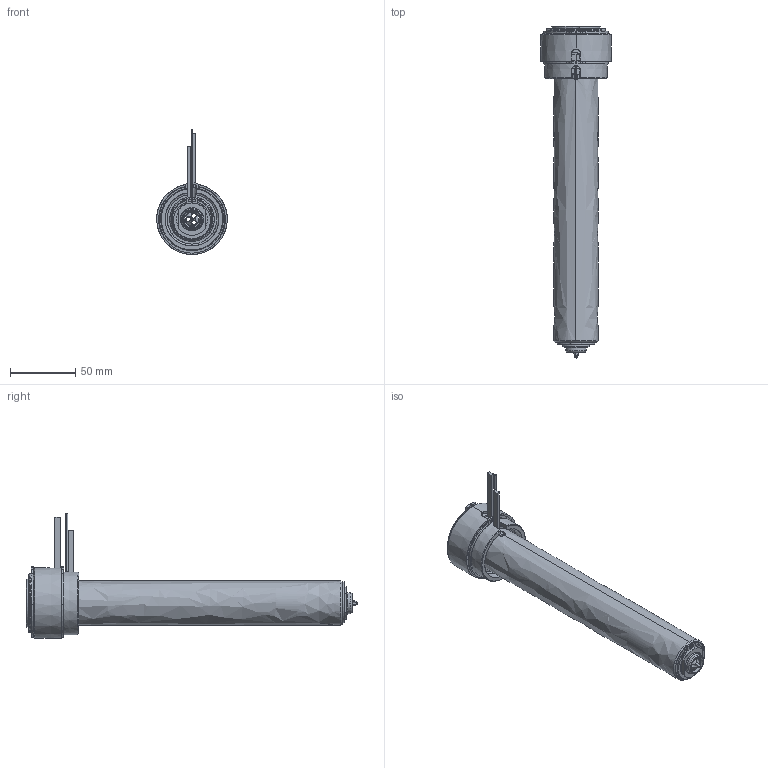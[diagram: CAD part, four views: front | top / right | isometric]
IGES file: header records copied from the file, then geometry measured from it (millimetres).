
Start section: SolidWorks IGES file using analytic representation for surfaces
Global section: file name: C:\Documents and Settings\ws-20\Desktop\TEM\UGEP5505-M-A-0 [Øf-1.55 ØC-12].IGS; native system: SolidWorks 2012; preprocessor: SolidWorks 2012; author: ws-20; date: 120427.080549; units: millimetre
Bounding box: 54 x 254.05 x 95.62 mm (x, y, z)
Surface area: 104529.6 mm2 (no closed solid volume)
Topology: 0 solids, 0 shells, 184 faces, 3574 edges, 3574 vertices
Faces by surface type: revolution 118, bspline 66
